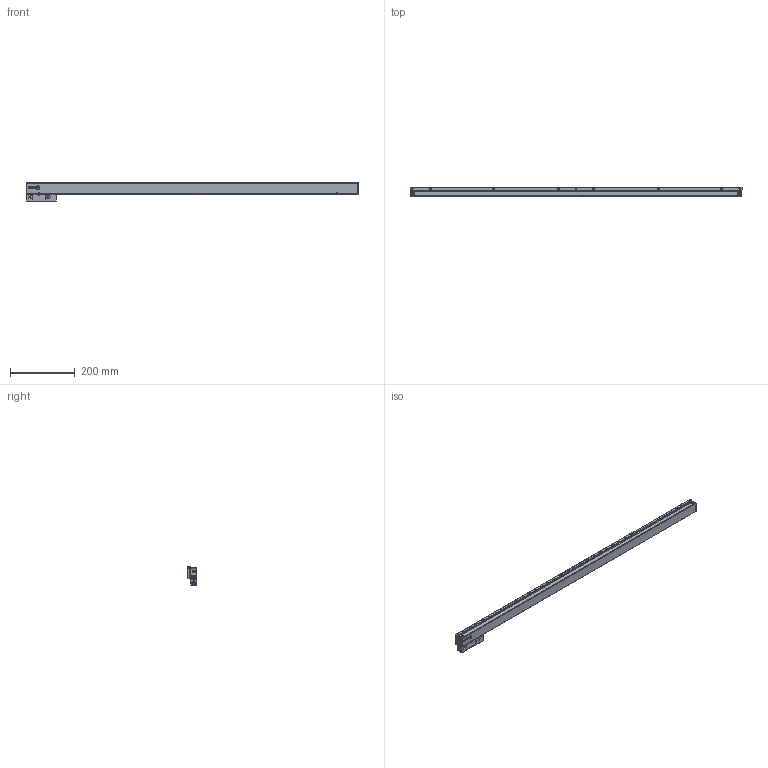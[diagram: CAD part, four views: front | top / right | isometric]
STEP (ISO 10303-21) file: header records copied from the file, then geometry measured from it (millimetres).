
FILE_DESCRIPTION(('Creo Elements/Direct Modeling STEP Export'),'2;1');
FILE_NAME('Regla SV2-920-T.stp','2018-10-15T15:57:03',(''),(''),'Creo Elements/Direct Modeling STEP processor for AP214 (Solid Model)','Creo Elements/Direct Modeling 19.0G 27-Nov-2017 (C) Parametric Technology GmbH','');
FILE_SCHEMA(('AUTOMOTIVE_DESIGN { 1 0 10303 214 1 1 1 1 }'));
Products named in the file (4): SOPORTE_SV2-T; REGLA_SV2-920-T; CABEZA_ROSCADA_REGLA_SV2-T
Assembly tree (3 placements, depth 2):
  REGLA_SV2-920-T
    CABEZA_ROSCADA_REGLA_SV2-T
    REGLA_SV2-920-T
    SOPORTE_SV2-T
Bounding box: 1025 x 28 x 56.2 mm (x, y, z)
Volume: 560751.8 mm3; surface area: 296389.3 mm2
Topology: 2 solids, 24 shells, 2393 faces, 6651 edges, 4328 vertices
Faces by surface type: plane 1062, cylinder 936, cone 232, bspline 114, torus 42, sphere 4, extrusion 3
Entity records: 100417 total; most frequent: CARTESIAN_POINT 31215, ORIENTED_EDGE 13290, DIRECTION 10965, EDGE_CURVE 6629, VERTEX_POINT 4328, AXIS2_PLACEMENT_3D 3741, VECTOR 3483, LINE 3480
